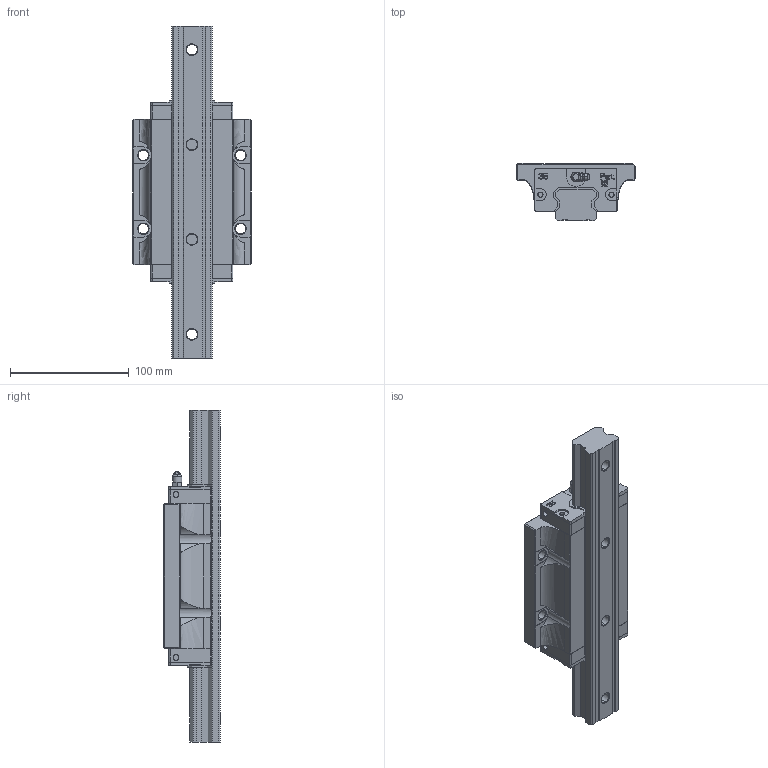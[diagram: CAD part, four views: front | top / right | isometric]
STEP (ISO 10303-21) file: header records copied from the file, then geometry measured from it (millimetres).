
FILE_DESCRIPTION (( 'STEP AP203' ), '1' );
FILE_NAME ('BGCH35FE.STEP', '2025-10-20T07:24:49', ( '' ), ( '' ), 'SwSTEP 2.0', 'SolidWorks 2020', '' );
FILE_SCHEMA (( 'CONFIG_CONTROL_DESIGN' ));
Length unit declared in the file: millimetre
Products named in the file (5): BGCH35FE; BG35端防塵; BGR35-L280; NGX02; BGXH35FE
Assembly tree (5 placements, depth 2):
  BGCH35FE
    BGR35-L280
    BGXH35FE
    BG35端防塵  x2
    NGX02
Bounding box: 99.95 x 48 x 280 mm (x, y, z)
Volume: 594442.7 mm3; surface area: 109395 mm2
Topology: 7 solids, 7 shells, 939 faces, 2589 edges, 1711 vertices
Faces by surface type: plane 692, cylinder 142, bspline 56, cone 45, torus 4
Entity records: 21884 total; most frequent: CARTESIAN_POINT 5185, ORIENTED_EDGE 3460, DIRECTION 3165, EDGE_CURVE 1730, LINE 1299, VECTOR 1299, VERTEX_POINT 1139, AXIS2_PLACEMENT_3D 933
